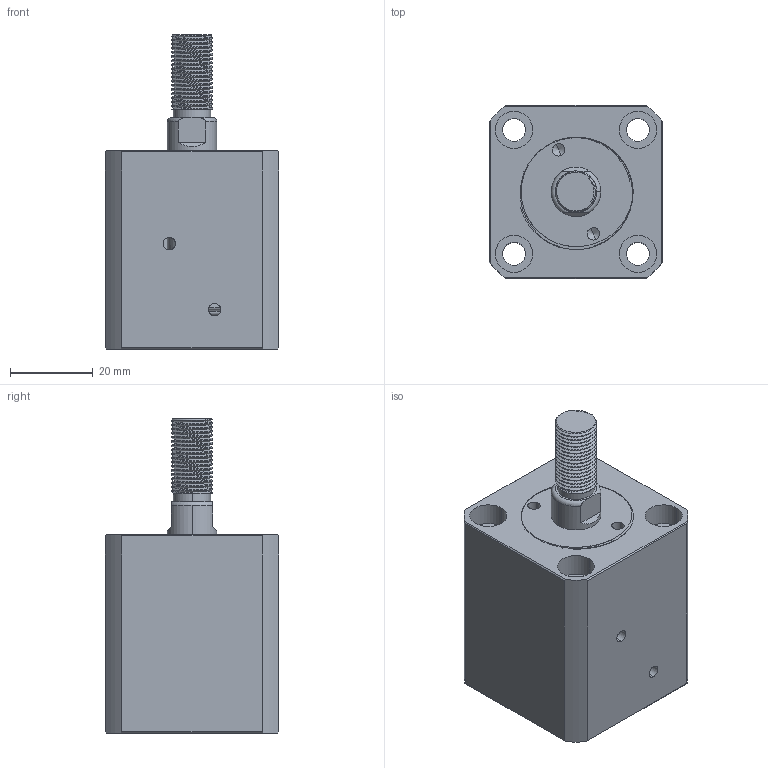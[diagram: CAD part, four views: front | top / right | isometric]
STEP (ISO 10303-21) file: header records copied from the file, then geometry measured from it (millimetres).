
FILE_DESCRIPTION (( 'STEP AP214' ), '1' );
FILE_NAME ('chtb-sdmb20x5w_asm.STEP', '2018-05-18T08:32:26', ( 'Windows' ), ( 'Microsoft' ), 'SwSTEP 2.0', 'SolidWorks 2015', '' );
FILE_SCHEMA (( 'AUTOMOTIVE_DESIGN' ));
Length unit declared in the file: millimetre
Products named in the file (4): QG_3; CHTB-SDMB20X5WHSG; CHTB-SDMB20X5NBT; chtb-sdmb20x5w_asm
Assembly tree (3 placements, depth 2):
  chtb-sdmb20x5w_asm
    CHTB-SDMB20X5NBT
    CHTB-SDMB20X5WHSG
    QG_3
Bounding box: 42 x 42 x 76 mm (x, y, z)
Volume: 76317 mm3; surface area: 26638.4 mm2
Topology: 3 solids, 3 shells, 243 faces, 660 edges, 439 vertices
Faces by surface type: cylinder 143, plane 47, torus 25, bspline 23, cone 5
Entity records: 14768 total; most frequent: CARTESIAN_POINT 8984, ORIENTED_EDGE 1312, DIRECTION 1058, EDGE_CURVE 656, VERTEX_POINT 439, AXIS2_PLACEMENT_3D 434, EDGE_LOOP 281, FACE_OUTER_BOUND 243
